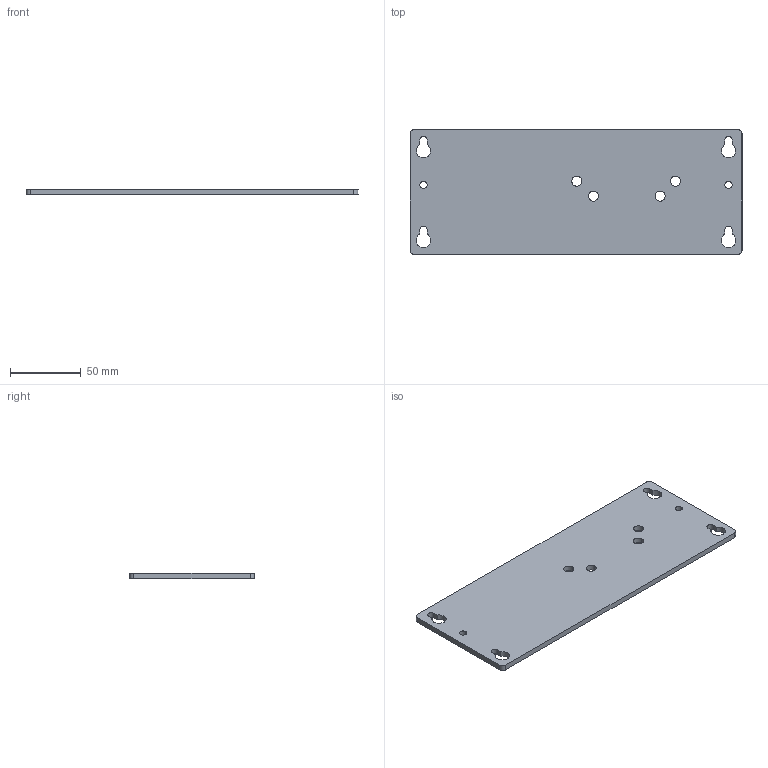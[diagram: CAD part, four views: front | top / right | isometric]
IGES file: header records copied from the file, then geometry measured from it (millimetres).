
Start section:  PTC IGES file: cu_panel_mount_4sl.igs
Global section: file name: cu_panel_mount_4sl.igs; native system: Pro/ENGINEER by Parametric Technology Corporation; preprocessor: 2011490; author: jbuhisan; organization: Unknown; date: 20130321.160440; units: inch
Bounding box: 234.95 x 88.14 x 4 mm (x, y, z)
Surface area: 43864.2 mm2 (no closed solid volume)
Topology: 0 solids, 0 shells, 38 faces, 216 edges, 216 vertices
Faces by surface type: revolution 24, bspline 14
